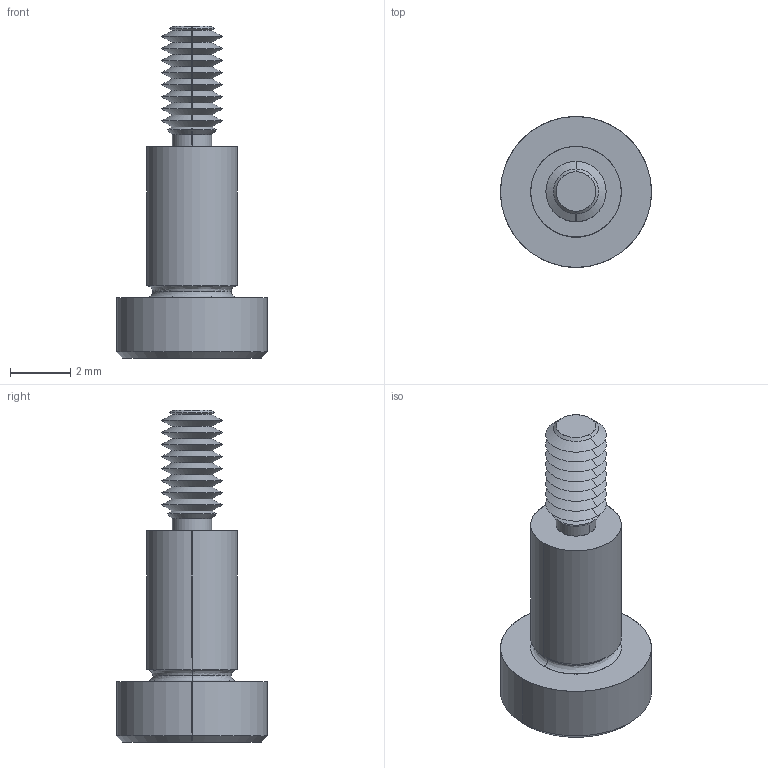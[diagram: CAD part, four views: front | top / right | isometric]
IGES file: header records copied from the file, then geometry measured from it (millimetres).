
Start section: SolidWorks IGES file using analytic representation for surfaces
Global section: file name: C:\Users\IanO\Documents\Temp Folder\GENERAL\SCREW REVISION\P0130_v2\P0130.T5_v2_20220106_IGES\P0130.030-005-T5.igs; native system: SolidWorks 2019; preprocessor: SolidWorks 2019; author: IanO; date: 220106.215857; units: millimetre
Bounding box: 5 x 5 x 11 mm (x, y, z)
Surface area: 163.4 mm2 (no closed solid volume)
Topology: 0 solids, 0 shells, 76 faces, 508 edges, 506 vertices
Faces by surface type: revolution 56, bspline 20
